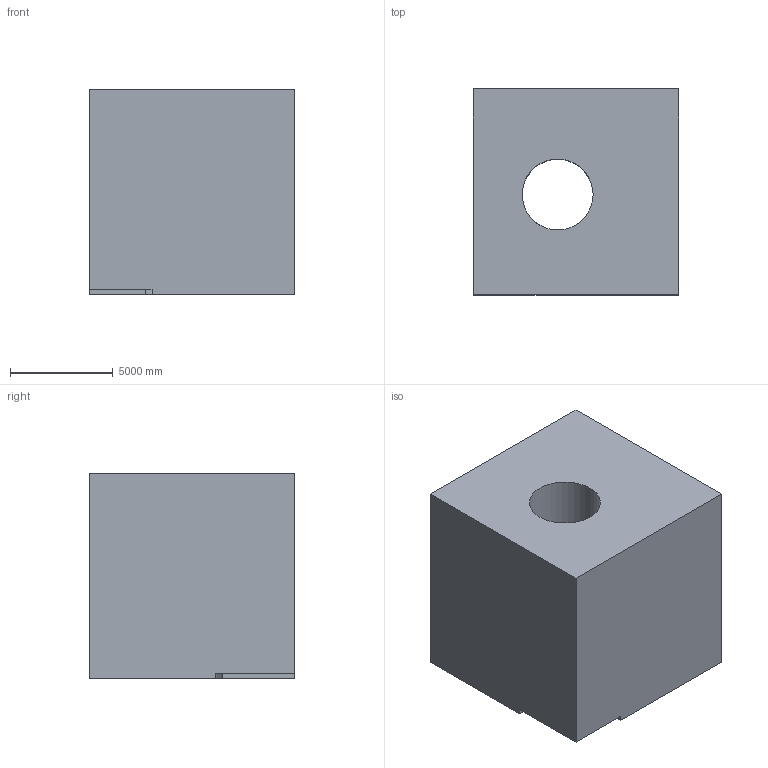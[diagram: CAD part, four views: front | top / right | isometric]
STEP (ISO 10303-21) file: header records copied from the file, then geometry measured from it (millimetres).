
FILE_DESCRIPTION (( 'STEP AP203' ), '1' );
FILE_NAME ('18.STEP', '2022-09-02T13:41:32', ( 'user' ), ( '' ), 'SwSTEP 2.0', 'SolidWorks 2021', '' );
FILE_SCHEMA (( 'CONFIG_CONTROL_DESIGN' ));
Length unit declared in the file: centimetre
Products named in the file (1): 18
Bounding box: 10000 x 10000 x 10000 mm (x, y, z)
Volume: 903958326993.5 mm3; surface area: 689256375.6 mm2
Topology: 1 solids, 1 shells, 11 faces, 30 edges, 20 vertices
Faces by surface type: plane 9, cylinder 2
Entity records: 431 total; most frequent: CARTESIAN_POINT 62, DIRECTION 60, ORIENTED_EDGE 60, EDGE_CURVE 30, LINE 24, VECTOR 24, VERTEX_POINT 20, AXIS2_PLACEMENT_3D 18
